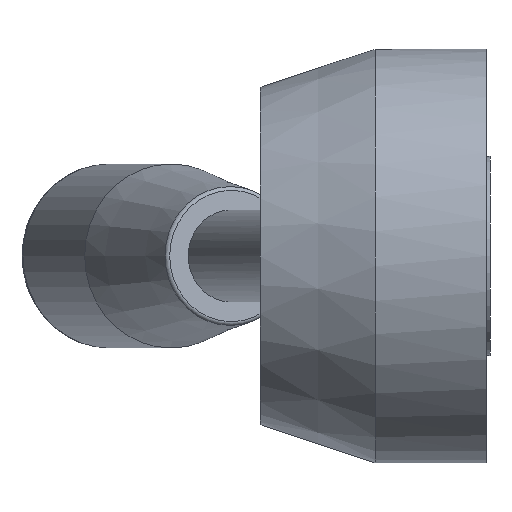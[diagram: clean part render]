
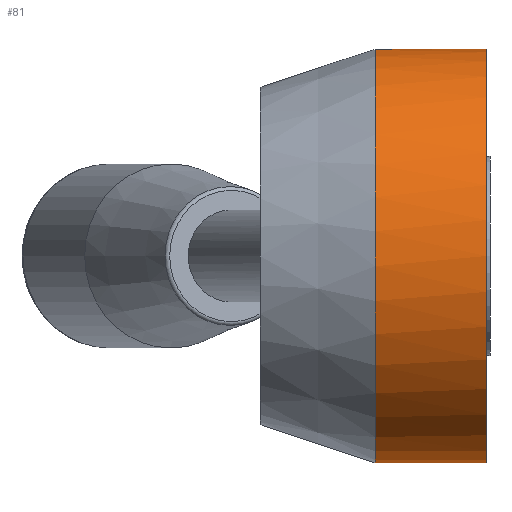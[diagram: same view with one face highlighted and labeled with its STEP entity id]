
A CAD part, left-side view. The second image highlights one B-rep face of the part: STEP entity #81.
In plain terms, the highlighted cylindrical face has radius 27 mm (diameter 54 mm), a full revolution.
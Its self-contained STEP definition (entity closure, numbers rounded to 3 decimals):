
#81 = ADVANCED_FACE( '', ( #132, #133 ), #134, .T. );
#132 = FACE_OUTER_BOUND( '', #228, .T. );
#133 = FACE_OUTER_BOUND( '', #229, .T. );
#134 = CYLINDRICAL_SURFACE( '', #230, 27. );
#228 = EDGE_LOOP( '', ( #353 ) );
#229 = EDGE_LOOP( '', ( #354, #355, #356, #357 ) );
#230 = AXIS2_PLACEMENT_3D( '', #358, #359, #360 );
#353 = ORIENTED_EDGE( '', *, *, #551, .F. );
#354 = ORIENTED_EDGE( '', *, *, #542, .F. );
#355 = ORIENTED_EDGE( '', *, *, #558, .T. );
#356 = ORIENTED_EDGE( '', *, *, #531, .F. );
#357 = ORIENTED_EDGE( '', *, *, #559, .F. );
#358 = CARTESIAN_POINT( '', ( 0., 0., 0. ) );
#359 = DIRECTION( '', ( 0., 1., 0. ) );
#360 = DIRECTION( '', ( 0., 0., -1. ) );
#531 = EDGE_CURVE( '', #592, #593, #594, .F. );
#542 = EDGE_CURVE( '', #611, #613, #614, .T. );
#551 = EDGE_CURVE( '', #630, #630, #631, .T. );
#558 = EDGE_CURVE( '', #611, #593, #644, .T. );
#559 = EDGE_CURVE( '', #613, #592, #645, .T. );
#592 = VERTEX_POINT( '', #695 );
#593 = VERTEX_POINT( '', #696 );
#594 = LINE( '', #697, #698 );
#611 = VERTEX_POINT( '', #725 );
#613 = VERTEX_POINT( '', #730 );
#614 = LINE( '', #731, #732 );
#630 = VERTEX_POINT( '', #749 );
#631 = CIRCLE( '', #750, 27. );
#644 = CIRCLE( '', #763, 27. );
#645 = CIRCLE( '', #764, 27. );
#695 = CARTESIAN_POINT( '', ( 23.867, 3., -12.624 ) );
#696 = CARTESIAN_POINT( '', ( 23.867, 15., -12.624 ) );
#697 = CARTESIAN_POINT( '', ( 23.867, 0., -12.624 ) );
#698 = VECTOR( '', #822, 1000. );
#725 = CARTESIAN_POINT( '', ( 23.867, 15., 12.624 ) );
#730 = CARTESIAN_POINT( '', ( 23.867, 3., 12.624 ) );
#731 = CARTESIAN_POINT( '', ( 23.867, 0., 12.624 ) );
#732 = VECTOR( '', #833, 1000. );
#749 = CARTESIAN_POINT( '', ( 0., 0.5, -27. ) );
#750 = AXIS2_PLACEMENT_3D( '', #856, #857, #858 );
#763 = AXIS2_PLACEMENT_3D( '', #877, #878, #879 );
#764 = AXIS2_PLACEMENT_3D( '', #880, #881, #882 );
#822 = DIRECTION( '', ( 0., -1., 0. ) );
#833 = DIRECTION( '', ( 0., -1., 0. ) );
#856 = CARTESIAN_POINT( '', ( 0., 0.5, 0. ) );
#857 = DIRECTION( '', ( 0., -1., 0. ) );
#858 = DIRECTION( '', ( 0., 0., -1. ) );
#877 = CARTESIAN_POINT( '', ( 0., 15., 0. ) );
#878 = DIRECTION( '', ( 0., -1., 0. ) );
#879 = DIRECTION( '', ( 0., 0., -1. ) );
#880 = CARTESIAN_POINT( '', ( 0., 3., 0. ) );
#881 = DIRECTION( '', ( 0., 1., 0. ) );
#882 = DIRECTION( '', ( 0., 0., 1. ) );
